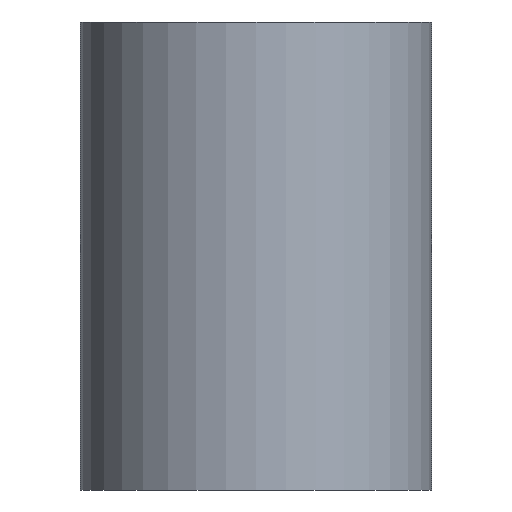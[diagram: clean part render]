
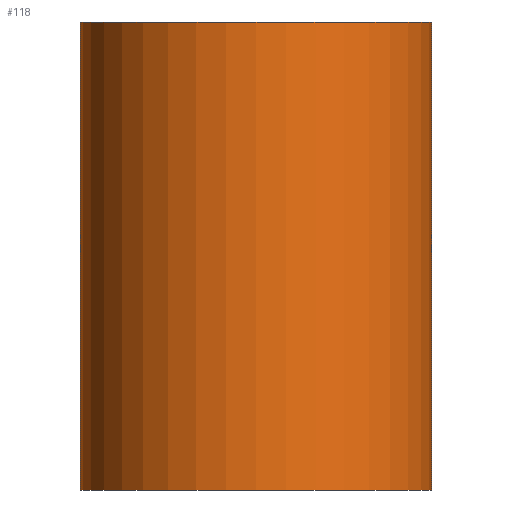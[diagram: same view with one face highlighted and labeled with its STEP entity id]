
A CAD part, front view. The second image highlights one B-rep face of the part: STEP entity #118.
In plain terms, the highlighted cylindrical face has radius 30 mm (diameter 60 mm), a partial arc.
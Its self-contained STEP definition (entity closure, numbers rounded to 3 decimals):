
#100=CYLINDRICAL_SURFACE('',#199,30.);
#104=FACE_OUTER_BOUND('',#132,.T.);
#107=LINE('',#257,#111);
#108=LINE('',#258,#112);
#111=VECTOR('',#228,1.);
#112=VECTOR('',#229,1.);
#118=ADVANCED_FACE('',(#104),#100,.T.);
#132=EDGE_LOOP('',(#153,#154,#155,#156));
#153=ORIENTED_EDGE('',*,*,#175,.F.);
#154=ORIENTED_EDGE('',*,*,#174,.T.);
#155=ORIENTED_EDGE('',*,*,#176,.T.);
#156=ORIENTED_EDGE('',*,*,#165,.F.);
#157=VERTEX_POINT('',#236);
#158=VERTEX_POINT('',#237);
#163=VERTEX_POINT('',#253);
#164=VERTEX_POINT('',#254);
#165=EDGE_CURVE('',#157,#158,#177,.T.);
#174=EDGE_CURVE('',#164,#163,#184,.T.);
#175=EDGE_CURVE('',#164,#157,#107,.T.);
#176=EDGE_CURVE('',#163,#158,#108,.T.);
#177=CIRCLE('',#186,30.);
#184=CIRCLE('',#196,30.);
#186=AXIS2_PLACEMENT_3D('',#235,#202,#203);
#196=AXIS2_PLACEMENT_3D('',#255,#224,#225);
#199=AXIS2_PLACEMENT_3D('',#260,#232,#233);
#202=DIRECTION('',(0.,0.,1.));
#203=DIRECTION('',(0.,1.,0.));
#224=DIRECTION('',(0.,0.,1.));
#225=DIRECTION('',(0.,1.,0.));
#228=DIRECTION('',(0.,0.,1.));
#229=DIRECTION('',(0.,0.,1.));
#232=DIRECTION('',(0.,0.,1.));
#233=DIRECTION('',(0.,-1.,0.));
#235=CARTESIAN_POINT('',(0.,0.,80.));
#236=CARTESIAN_POINT('',(-30.,0.,80.));
#237=CARTESIAN_POINT('',(30.,0.,80.));
#253=CARTESIAN_POINT('',(30.,0.,0.));
#254=CARTESIAN_POINT('',(-30.,0.,0.));
#255=CARTESIAN_POINT('',(0.,0.,0.));
#257=CARTESIAN_POINT('',(-30.,0.,80.));
#258=CARTESIAN_POINT('',(30.,0.,80.));
#260=CARTESIAN_POINT('',(0.,0.,0.));
